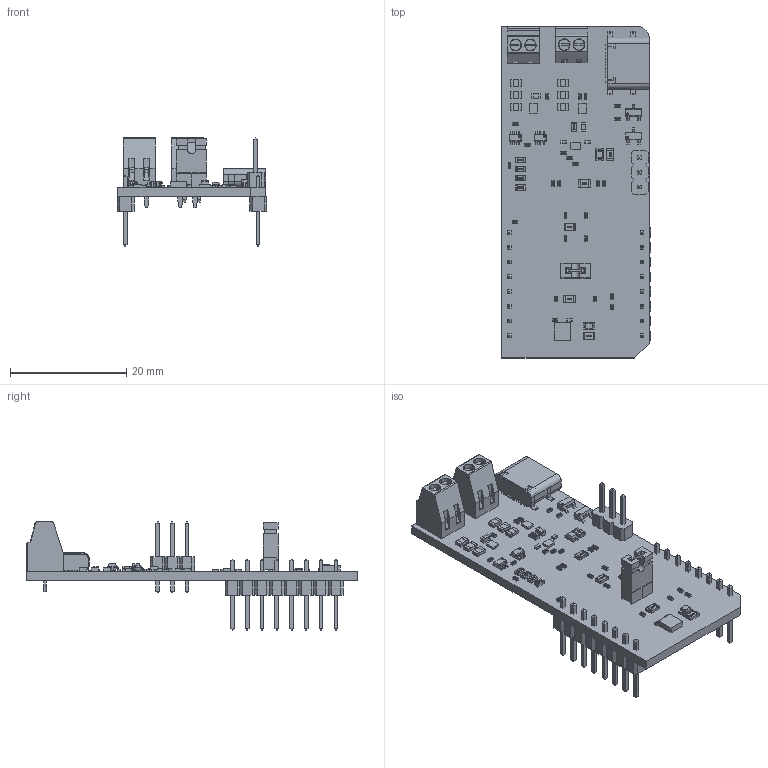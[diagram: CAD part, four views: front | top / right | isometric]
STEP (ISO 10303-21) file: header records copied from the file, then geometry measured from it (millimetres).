
FILE_DESCRIPTION(('Open CASCADE Model'),'2;1');
FILE_NAME('Open CASCADE Shape Model','2026-04-06T10:01:58',('Author'),( 'Open CASCADE'),'Open CASCADE STEP processor 6.8','Open CASCADE 6.8' ,'Unknown');
FILE_SCHEMA(('AUTOMOTIVE_DESIGN { 1 0 10303 214 1 1 1 1 }'));
Length unit declared in the file: millimetre
Products named in the file (111): PCB; Board; R27; User_Library-R_0402; R26; Q2; SOT23-3; Q1; U6; User_Library-sot363; U5; R25; R24; R23; JP2; User_Library-R_0805; C10; User_Library-SMD_CAPACITOR0805; C8; C7; C6; User_Library-SMD_CAPACITOR0603; R1; LD1; led_0805_green; R2; C1; User_Library-SMD_CAPACITOR0402; U1; 1204645568; Extruded; R16; User_Library-R_0603; R15; R14; JP3; R13; R12; R7; JP6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
Assembly tree (168 placements, depth 10):
  PCB
    Board
    R27
      User_Library-R_0402
    R26
      User_Library-R_0402
    Q2
      SOT23-3
    Q1
      SOT23-3
    U6
      User_Library-sot363
    U5
      User_Library-sot363
    R25
      User_Library-R_0402
    R24
      User_Library-R_0402
    R23
      User_Library-R_0402
    JP2
      User_Library-R_0805
    C10
      User_Library-SMD_CAPACITOR0805
    C8
      User_Library-SMD_CAPACITOR0805
    C7
      User_Library-SMD_CAPACITOR0805
    C6
      User_Library-SMD_CAPACITOR0603
    R1
      User_Library-R_0805
    LD1
      led_0805_green
    R2
      User_Library-R_0402
    C1
      User_Library-SMD_CAPACITOR0402
    U1
      1204645568
        Extruded
    R16
      User_Library-R_0603
    R15
      User_Library-R_0402
    R14
      User_Library-R_0402
    JP3
      User_Library-R_0805
    R13
      User_Library-R_0402
    R12
      User_Library-R_0402
    R7
      User_Library-R_0402
    JP6
      User_Library-R_0603
    JP5
      User_Library-R_0603
    JP4
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Bounding box: 25.78 x 57.15 x 18.62 mm (x, y, z)
Volume: 3509.9 mm3; surface area: 7258.3 mm2
Topology: 236 solids, 236 shells, 5409 faces, 13557 edges, 8770 vertices
Faces by surface type: plane 3772, bspline 1085, cylinder 400, sphere 146, cone 4, torus 2
Full cylindrical faces by diameter (mm): 0.6 x2
Entity records: 55026 total; most frequent: CARTESIAN_POINT 14396, ORIENTED_EDGE 6600, DIRECTION 6243, EDGE_CURVE 3300, LINE 2585, VECTOR 2585, VERTEX_POINT 2136, AXIS2_PLACEMENT_3D 1829
